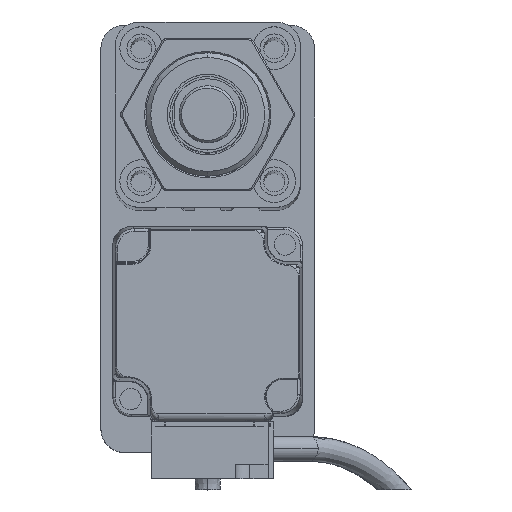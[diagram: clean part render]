
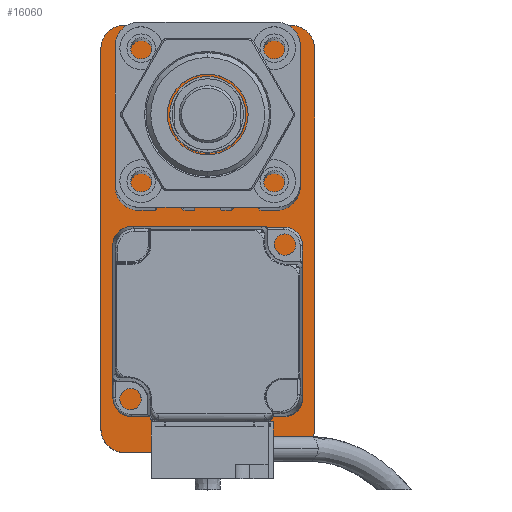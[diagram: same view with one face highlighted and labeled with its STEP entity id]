
A CAD part, top view. The second image highlights one B-rep face of the part: STEP entity #16060.
In plain terms, the highlighted planar face has unit normal (0, 0, 1).
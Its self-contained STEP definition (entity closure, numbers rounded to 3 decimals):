
#230 = CARTESIAN_POINT ( 'NONE',  ( 22.5, 45., 10. ) ) ;
#316 = EDGE_CURVE ( 'NONE', #11194, #8970, #26345, .T. ) ;
#1229 = EDGE_CURVE ( 'NONE', #6991, #13346, #19600, .T. ) ;
#1866 = EDGE_CURVE ( 'NONE', #7297, #6991, #21226, .T. ) ;
#1911 = DIRECTION ( 'NONE',  ( 1., 0., 0. ) ) ;
#2176 = DIRECTION ( 'NONE',  ( 1., 0., 0. ) ) ;
#2660 = VECTOR ( 'NONE', #19466, 1000. ) ;
#2826 = ORIENTED_EDGE ( 'NONE', *, *, #11026, .T. ) ;
#2906 = CIRCLE ( 'NONE', #9708, 5. ) ;
#4832 = DIRECTION ( 'NONE',  ( 1., 0., 0. ) ) ;
#5473 = CARTESIAN_POINT ( 'NONE',  ( 17.5, 40., 10. ) ) ;
#6318 = CARTESIAN_POINT ( 'NONE',  ( 0., 0., 10. ) ) ;
#6413 = CARTESIAN_POINT ( 'NONE',  ( -22.5, -40., 10. ) ) ;
#6991 = VERTEX_POINT ( 'NONE', #18003 ) ;
#7178 = CARTESIAN_POINT ( 'NONE',  ( -17.5, -40., 10. ) ) ;
#7285 = CARTESIAN_POINT ( 'NONE',  ( -17.5, -45., 10. ) ) ;
#7297 = VERTEX_POINT ( 'NONE', #12656 ) ;
#7310 = ORIENTED_EDGE ( 'NONE', *, *, #1866, .T. ) ;
#7439 = DIRECTION ( 'NONE',  ( 0., 0., 1. ) ) ;
#7741 = DIRECTION ( 'NONE',  ( 1., 0., 0. ) ) ;
#8308 = ORIENTED_EDGE ( 'NONE', *, *, #22498, .T. ) ;
#8311 = EDGE_CURVE ( 'NONE', #26023, #27454, #16534, .T. ) ;
#8755 = VECTOR ( 'NONE', #2176, 1000. ) ;
#8762 = DIRECTION ( 'NONE',  ( 1., 0., 0. ) ) ;
#8937 = VERTEX_POINT ( 'NONE', #18190 ) ;
#8970 = VERTEX_POINT ( 'NONE', #9939 ) ;
#9331 = EDGE_LOOP ( 'NONE', ( #2826, #8308, #7310, #25173, #14122, #27632, #25769, #18520 ) ) ;
#9708 = AXIS2_PLACEMENT_3D ( 'NONE', #5473, #7439, #20460 ) ;
#9939 = CARTESIAN_POINT ( 'NONE',  ( 22.5, -40., 10. ) ) ;
#9977 = DIRECTION ( 'NONE',  ( 0., 0., 1. ) ) ;
#10728 = CARTESIAN_POINT ( 'NONE',  ( -17.5, 40., 10. ) ) ;
#10873 = EDGE_CURVE ( 'NONE', #27454, #11194, #14449, .T. ) ;
#11026 = EDGE_CURVE ( 'NONE', #8970, #8937, #21127, .T. ) ;
#11194 = VERTEX_POINT ( 'NONE', #27709 ) ;
#11307 = DIRECTION ( 'NONE',  ( 0., 0., 1. ) ) ;
#11645 = EDGE_CURVE ( 'NONE', #13346, #26023, #26800, .T. ) ;
#11866 = CARTESIAN_POINT ( 'NONE',  ( 17.5, -40., 10. ) ) ;
#12531 = PLANE ( 'NONE',  #19161 ) ;
#12656 = CARTESIAN_POINT ( 'NONE',  ( 17.5, 45., 10. ) ) ;
#13346 = VERTEX_POINT ( 'NONE', #13848 ) ;
#13791 = CARTESIAN_POINT ( 'NONE',  ( 22.5, -45., 10. ) ) ;
#13806 = AXIS2_PLACEMENT_3D ( 'NONE', #7178, #11307, #4832 ) ;
#13848 = CARTESIAN_POINT ( 'NONE',  ( -22.5, 40., 10. ) ) ;
#14043 = FACE_OUTER_BOUND ( 'NONE', #9331, .T. ) ;
#14122 = ORIENTED_EDGE ( 'NONE', *, *, #11645, .T. ) ;
#14449 = LINE ( 'NONE', #25509, #8755 ) ;
#16060 = ADVANCED_FACE ( 'NONE', ( #14043 ), #12531, .T. ) ;
#16215 = VECTOR ( 'NONE', #25922, 1000. ) ;
#16534 = CIRCLE ( 'NONE', #13806, 5. ) ;
#17802 = VECTOR ( 'NONE', #26618, 1000. ) ;
#18003 = CARTESIAN_POINT ( 'NONE',  ( -17.5, 45., 10. ) ) ;
#18132 = AXIS2_PLACEMENT_3D ( 'NONE', #10728, #19611, #8762 ) ;
#18190 = CARTESIAN_POINT ( 'NONE',  ( 22.5, 40., 10. ) ) ;
#18520 = ORIENTED_EDGE ( 'NONE', *, *, #316, .T. ) ;
#19161 = AXIS2_PLACEMENT_3D ( 'NONE', #6318, #27484, #1911 ) ;
#19466 = DIRECTION ( 'NONE',  ( 0., -1., 0. ) ) ;
#19600 = CIRCLE ( 'NONE', #18132, 5. ) ;
#19611 = DIRECTION ( 'NONE',  ( 0., 0., 1. ) ) ;
#20460 = DIRECTION ( 'NONE',  ( 1., 0., 0. ) ) ;
#21127 = LINE ( 'NONE', #13791, #17802 ) ;
#21226 = LINE ( 'NONE', #230, #16215 ) ;
#22498 = EDGE_CURVE ( 'NONE', #8937, #7297, #2906, .T. ) ;
#23572 = CARTESIAN_POINT ( 'NONE',  ( -22.5, -45., 10. ) ) ;
#25173 = ORIENTED_EDGE ( 'NONE', *, *, #1229, .T. ) ;
#25509 = CARTESIAN_POINT ( 'NONE',  ( 22.5, -45., 10. ) ) ;
#25769 = ORIENTED_EDGE ( 'NONE', *, *, #10873, .T. ) ;
#25922 = DIRECTION ( 'NONE',  ( -1., 0., 0. ) ) ;
#25990 = AXIS2_PLACEMENT_3D ( 'NONE', #11866, #9977, #7741 ) ;
#26023 = VERTEX_POINT ( 'NONE', #6413 ) ;
#26345 = CIRCLE ( 'NONE', #25990, 5. ) ;
#26618 = DIRECTION ( 'NONE',  ( 0., 1., 0. ) ) ;
#26800 = LINE ( 'NONE', #23572, #2660 ) ;
#27454 = VERTEX_POINT ( 'NONE', #7285 ) ;
#27484 = DIRECTION ( 'NONE',  ( 0., 0., 1. ) ) ;
#27632 = ORIENTED_EDGE ( 'NONE', *, *, #8311, .T. ) ;
#27709 = CARTESIAN_POINT ( 'NONE',  ( 17.5, -45., 10. ) ) ;
